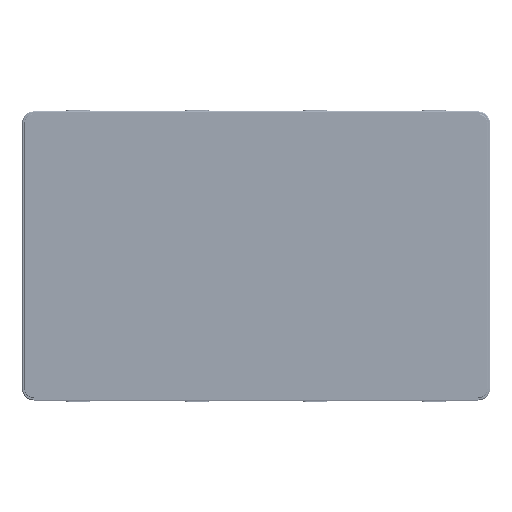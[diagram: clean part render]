
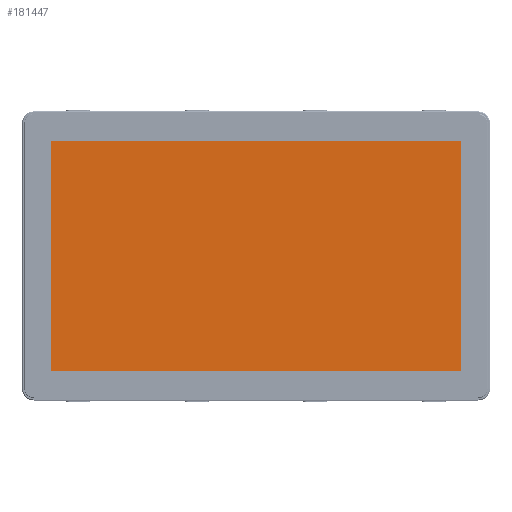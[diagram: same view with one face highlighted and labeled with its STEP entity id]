
A CAD part, top view. The second image highlights one B-rep face of the part: STEP entity #181447.
In plain terms, the highlighted planar face has unit normal (0, 0, 1).
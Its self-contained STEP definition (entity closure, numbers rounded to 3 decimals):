
#3055 = LINE ( 'NONE', #186437, #88107 ) ;
#10611 = EDGE_LOOP ( 'NONE', ( #162340, #189595, #36399, #73920 ) ) ;
#11783 = CARTESIAN_POINT ( 'NONE',  ( -172.615, 97.27, 0. ) ) ;
#14250 = PLANE ( 'NONE',  #150956 ) ;
#21960 = CARTESIAN_POINT ( 'NONE',  ( 172.615, 97.27, 0. ) ) ;
#26128 = DIRECTION ( 'NONE',  ( -1., 0., 0. ) ) ;
#30628 = DIRECTION ( 'NONE',  ( -1., 0., 0. ) ) ;
#35695 = CARTESIAN_POINT ( 'NONE',  ( -172.615, -97.27, 0. ) ) ;
#36399 = ORIENTED_EDGE ( 'NONE', *, *, #92685, .T. ) ;
#44532 = VERTEX_POINT ( 'NONE', #99935 ) ;
#49560 = EDGE_CURVE ( 'NONE', #181238, #123968, #94225, .T. ) ;
#50149 = DIRECTION ( 'NONE',  ( 0., 1., 0. ) ) ;
#54641 = EDGE_CURVE ( 'NONE', #108135, #181238, #3055, .T. ) ;
#73920 = ORIENTED_EDGE ( 'NONE', *, *, #173648, .T. ) ;
#75238 = LINE ( 'NONE', #11783, #160196 ) ;
#81794 = LINE ( 'NONE', #35695, #86886 ) ;
#86886 = VECTOR ( 'NONE', #104195, 1000. ) ;
#88107 = VECTOR ( 'NONE', #201806, 1000. ) ;
#91440 = VECTOR ( 'NONE', #50149, 1000. ) ;
#92685 = EDGE_CURVE ( 'NONE', #123968, #44532, #75238, .T. ) ;
#93100 = CARTESIAN_POINT ( 'NONE',  ( -187.5, -112., 0. ) ) ;
#94225 = LINE ( 'NONE', #155711, #91440 ) ;
#94680 = CARTESIAN_POINT ( 'NONE',  ( -172.615, -97.27, 0. ) ) ;
#99935 = CARTESIAN_POINT ( 'NONE',  ( -172.615, 97.27, 0. ) ) ;
#100405 = CARTESIAN_POINT ( 'NONE',  ( 172.615, -97.27, 0. ) ) ;
#104195 = DIRECTION ( 'NONE',  ( 0., -1., 0. ) ) ;
#108135 = VERTEX_POINT ( 'NONE', #94680 ) ;
#123968 = VERTEX_POINT ( 'NONE', #21960 ) ;
#150956 = AXIS2_PLACEMENT_3D ( 'NONE', #93100, #170909, #30628 ) ;
#155711 = CARTESIAN_POINT ( 'NONE',  ( 172.615, -97.27, 0. ) ) ;
#160196 = VECTOR ( 'NONE', #26128, 1000. ) ;
#162340 = ORIENTED_EDGE ( 'NONE', *, *, #54641, .T. ) ;
#170909 = DIRECTION ( 'NONE',  ( 0., 0., -1. ) ) ;
#173648 = EDGE_CURVE ( 'NONE', #44532, #108135, #81794, .T. ) ;
#181238 = VERTEX_POINT ( 'NONE', #100405 ) ;
#181447 = ADVANCED_FACE ( 'NONE', ( #188316 ), #14250, .F. ) ;
#186437 = CARTESIAN_POINT ( 'NONE',  ( -172.615, -97.27, 0. ) ) ;
#188316 = FACE_OUTER_BOUND ( 'NONE', #10611, .T. ) ;
#189595 = ORIENTED_EDGE ( 'NONE', *, *, #49560, .T. ) ;
#201806 = DIRECTION ( 'NONE',  ( 1., 0., 0. ) ) ;
